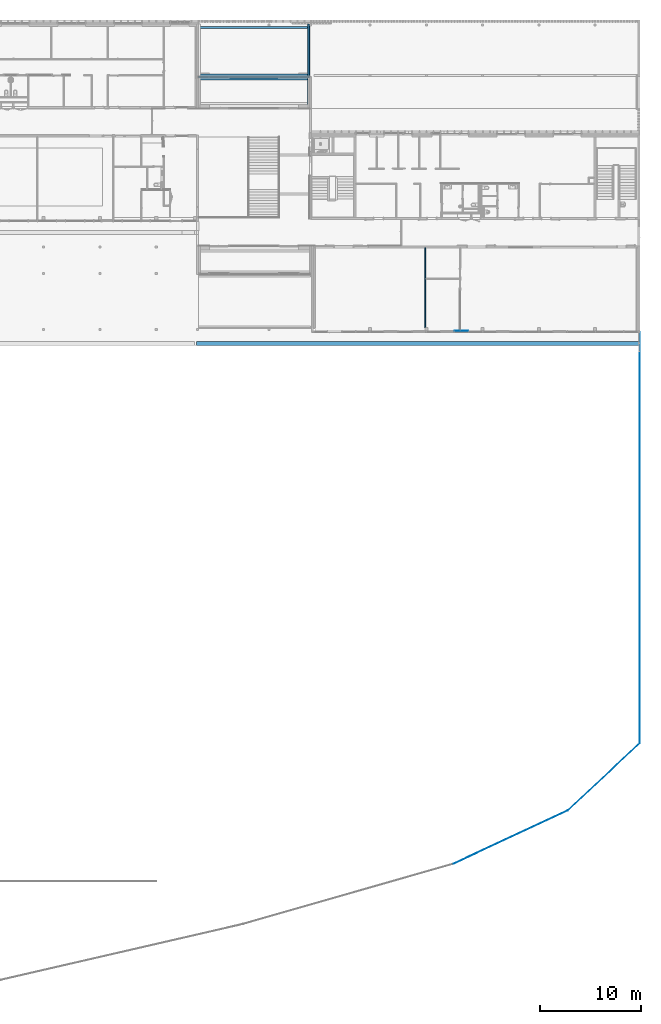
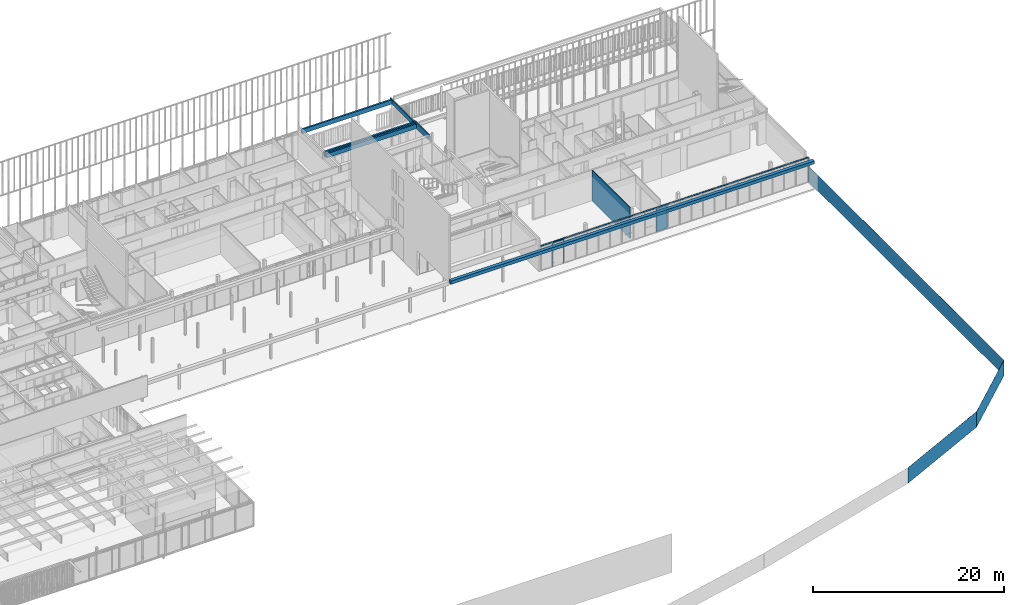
# One storey, part 161 of 240: 13 walls, 4 openings.
"""IFC2X3 building model written with IfcOpenShell, lengths in centimetres."""

from ifc_helpers import new_model, entity, si_unit, converted_unit, derived_unit, direction, frame, frame_2d, origin, origin_2d_with_axis, place, context, subcontext, project, spatial, polyline, rectangle, outline, extrude, clip, bounded_halfspace, faceted_brep, material, layer, layer_set, layer_usage, type_object, element, save


model = new_model("IFC2X3")

# Units and contexts
model_context = context("Model", 3, precision=0.001, world=origin(), true_north=direction((6.12303176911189e-17, 1.0)))
body_context = subcontext(model_context, "Body", "Model", "MODEL_VIEW")
ifc_project = project(units=[si_unit("LENGTHUNIT", "METRE", prefix="CENTI"), si_unit("AREAUNIT", "SQUARE_METRE"), si_unit("VOLUMEUNIT", "CUBIC_METRE"), converted_unit("PLANEANGLEUNIT", "DEGREE", entity("IfcRatioMeasure", 0.0174532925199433), si_unit("PLANEANGLEUNIT", "RADIAN"), dimensions=[0, 0, 0, 0, 0, 0, 0]), si_unit("MASSUNIT", "GRAM", prefix="KILO"), derived_unit("MASSDENSITYUNIT", [(si_unit("MASSUNIT", "GRAM", prefix="KILO"), 1), (si_unit("LENGTHUNIT", "METRE"), -3)]), si_unit("TIMEUNIT", "SECOND"), si_unit("FREQUENCYUNIT", "HERTZ"), si_unit("THERMODYNAMICTEMPERATUREUNIT", "DEGREE_CELSIUS"), derived_unit("THERMALTRANSMITTANCEUNIT", [(si_unit("MASSUNIT", "GRAM", prefix="KILO"), 1), (si_unit("THERMODYNAMICTEMPERATUREUNIT", "KELVIN"), -1), (si_unit("TIMEUNIT", "SECOND"), -3)]), derived_unit("VOLUMETRICFLOWRATEUNIT", [(si_unit("LENGTHUNIT", "METRE"), 3), (si_unit("TIMEUNIT", "SECOND"), -1)]), si_unit("ELECTRICCURRENTUNIT", "AMPERE"), si_unit("ELECTRICVOLTAGEUNIT", "VOLT"), si_unit("POWERUNIT", "WATT"), si_unit("FORCEUNIT", "NEWTON", prefix="KILO"), si_unit("ILLUMINANCEUNIT", "LUX"), si_unit("LUMINOUSFLUXUNIT", "LUMEN"), si_unit("LUMINOUSINTENSITYUNIT", "CANDELA"), derived_unit("USERDEFINED", [(si_unit("MASSUNIT", "GRAM", prefix="KILO"), -1), (si_unit("LENGTHUNIT", "METRE"), -2), (si_unit("TIMEUNIT", "SECOND"), 3), (si_unit("LUMINOUSFLUXUNIT", "LUMEN"), 1)]), derived_unit("LINEARVELOCITYUNIT", [(si_unit("LENGTHUNIT", "METRE"), 1), (si_unit("TIMEUNIT", "SECOND"), -1)]), si_unit("PRESSUREUNIT", "PASCAL"), derived_unit("USERDEFINED", [(si_unit("LENGTHUNIT", "METRE"), -2), (si_unit("MASSUNIT", "GRAM", prefix="KILO"), 1), (si_unit("TIMEUNIT", "SECOND"), -2)])], contexts=[model_context])

# Site, building, storey
site_placement = place(None, frame((-2781.94577612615, 7442.24238424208, 0.0)))
site = spatial("IfcSite", under=ifc_project, at=site_placement, Name="Default", CompositionType="ELEMENT")
building_placement = place(site_placement, origin())
building = spatial("IfcBuilding", under=site, at=building_placement, CompositionType="ELEMENT")
storey_placement = place(building_placement, origin())
storey = spatial("IfcBuildingStorey", under=building, at=storey_placement, Name="N00 - COO", CompositionType="ELEMENT", Elevation=0.0)

# Wall, openings
ifc_material_1 = material(Name="Aluminium bardage")
ifc_layer_1 = layer(ifc_material_1, 0.5)
ifc_material_2 = material(Name="01 - Lame d'air")
ifc_layer_2 = layer(ifc_material_2, 1.5)
ifc_material_3 = material(Name="00 - Isolant")
ifc_layer_3 = layer(ifc_material_3, 18.0)
ifc_layer_set_1 = layer_set([ifc_layer_1, ifc_layer_2, ifc_layer_3], Name="Mur de base:04 - Parement - ITE 18cm + vide 2cm")
ifc_layer_usage_1 = layer_usage(ifc_layer_set_1, "AXIS2", "POSITIVE", -10.0)
wall_type_1 = type_object("IfcWallType", Name="Mur de base:04 - Parement - ITE 18cm + vide 2cm", PredefinedType="STANDARD", material=ifc_layer_set_1)
wall_1_placement = place(building_placement, frame((-3629.49987968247, -3040.31349958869, 0.0)))
wall_1 = element("IfcWallStandardCase", 1, at=wall_1_placement, inside=storey, type_object=wall_type_1, material=ifc_layer_usage_1, Name="Mur de base:04 - Parement - ITE 18cm + vide 2cm", ObjectType="Mur de base:04 - Parement - ITE 18cm + vide 2cm", context=body_context, shape_type="SweptSolid", body=[
    extrude(rectangle(XDim=3239.49999684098, YDim=19.9999999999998, at=frame_2d((1619.74999842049, 2.1316282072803e-14), x_axis=(-1.0, 0.0))), origin(), (0.0, 0.0, 1.0), 313.0),
])
opening_1_placement = place(wall_1_placement, origin())
element("IfcOpeningElement", 2, at=opening_1_placement, cuts=wall_1, Name="Mur de base:04 - Parement - ITE 18cm + vide 2cm", ObjectType="Opening", context=body_context, shape_type="SweptSolid", body=[
    extrude(rectangle(XDim=312.5, YDim=142.816071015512, at=origin_2d_with_axis()), frame((71.4080355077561, -25.2399999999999, 156.25), z_axis=(0.0, 1.0, 0.0), x_axis=(0.0, 0.0, 1.0)), (0.0, 0.0, 1.0), 50.4799999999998),
])
opening_2_placement = place(wall_1_placement, origin())
element("IfcOpeningElement", 3, at=opening_2_placement, cuts=wall_1, Name="Mur de base:04 - Parement - ITE 18cm + vide 2cm", ObjectType="Opening", context=body_context, shape_type="SweptSolid", body=[
    extrude(rectangle(XDim=312.5, YDim=2959.8, at=frame_2d((0.0, -2.27373675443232e-13), x_axis=(1.0, 0.0))), frame((1759.09999684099, -25.2399999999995, 156.25), z_axis=(0.0, 1.0, 0.0), x_axis=(0.0, 0.0, 1.0)), (0.0, 0.0, 1.0), 50.4799999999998),
])
opening_3_placement = place(wall_1_placement, origin())
element("IfcOpeningElement", 4, at=opening_3_placement, cuts=wall_1, Name="Mur de base:04 - Parement - ITE 18cm + vide 2cm", ObjectType="Opening", context=body_context, shape_type="SweptSolid", body=[
    extrude(rectangle(XDim=200.000000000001, YDim=10.0, at=frame_2d((0.0, 0.0), x_axis=(0.0, 1.0))), frame((3234.49999684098, -199.899999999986, 100.0), z_axis=(0.0, 1.0, 0.0), x_axis=(1.0, 0.0, 0.0)), (0.0, 0.0, 1.0), 190.0),
])
opening_4_placement = place(wall_1_placement, frame((142.816071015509, -10.1000000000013, -15.0)))
element("IfcOpeningElement", 5, at=opening_4_placement, cuts=wall_1, Name="Mur de base:04 - Parement - ITE 18cm + vide 2cm", ObjectType="Opening", context=body_context, shape_type="Brep", body=[
    faceted_brep([(2.0, 0.0, 319.0), (2.0, 0.0, 0.0), (134.383925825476, 0.0, 0.0), (134.383925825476, 0.0, 319.0), (2.0, 1.30000000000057, 319.0), (2.0, 1.30000000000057, 0.0), (0.0, 1.30000000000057, 0.0), (0.0, 61.3000000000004, 0.0), (136.383925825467, 61.3000000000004, 0.0), (136.383925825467, 1.30000000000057, 0.0), (134.383925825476, 1.30000000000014, 0.0), (134.383925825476, 1.30000000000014, 319.0), (136.383925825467, 61.3000000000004, 321.0), (0.0, 61.3000000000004, 321.0), (136.383925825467, 1.30000000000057, 321.0), (0.0, 1.30000000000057, 321.0)], [[[0, 1, 2, 3]], [[1, 0, 4, 5]], [[2, 1, 5, 6, 7, 8, 9, 10]], [[3, 2, 10, 11]], [[0, 3, 11, 4]], [[12, 8, 7, 13]], [[14, 15, 6, 5, 4, 11, 10, 9]], [[8, 12, 14, 9]], [[13, 7, 6, 15]], [[12, 13, 15, 14]]]),
])

# Walls
ifc_material_4 = material(Name="01 - Maçonnerie")
ifc_layer_4 = layer(ifc_material_4, 20.0)
ifc_layer_set_2 = layer_set([ifc_layer_4], Name="Mur de base:04 - Structure - béton - 20cm")
ifc_layer_usage_2 = layer_usage(ifc_layer_set_2, "AXIS2", "NEGATIVE", 10.0)
wall_type_2 = type_object("IfcWallType", Name="Mur de base:04 - Structure - béton - 20cm", PredefinedType="STANDARD", material=ifc_layer_set_2)
wall_2_placement = place(storey_placement, frame((-4767.99987760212, -517.548500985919, 313.0)))
element("IfcWallStandardCase", 6, at=wall_2_placement, inside=storey, type_object=wall_type_2, material=ifc_layer_usage_2, Name="Mur de base:04 - Structure - béton - 20cm", ObjectType="Mur de base:04 - Structure - béton - 20cm", context=body_context, shape_type="Clipping", body=[
    clip(clip(extrude(rectangle(XDim=1099.99999791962, YDim=20.0, at=frame_2d((549.999998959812, 3.10862446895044e-14), x_axis=(-1.0, 0.0))), origin(), (0.0, 0.0, 1.0), 78.0000000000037), bounded_halfspace(frame((0.0, -5.0, 7.0), z_axis=(0.0, 0.0, 1.0), x_axis=(0.0, 1.0, 0.0)), True, frame((0.0, -5.0, 7.0), z_axis=(0.0, 0.0, 1.0), x_axis=(0.0, 1.0, 0.0)), polyline([(0.0, 0.0), (-5.0, 0.0), (-5.0, -1100.0), (0.0, -1100.0), (0.0, 0.0)]))), bounded_halfspace(frame((1100.0, -5.0, 7.0), z_axis=(0.0, 1.0, 0.0), x_axis=(0.0, 0.0, -1.0)), True, frame((1100.0, -5.0, 7.0), z_axis=(0.0, 1.0, 0.0), x_axis=(0.0, 0.0, -1.0)), polyline([(0.0, 0.0), (7.0, 0.0), (7.0, 1100.0), (0.0, 1100.0), (0.0, 0.0)]))),
])
ifc_layer_5 = layer(ifc_material_4, 40.0)
ifc_layer_set_3 = layer_set([ifc_layer_5], Name="Mur de base:04 - Structure - Béton - 40")
ifc_layer_usage_3 = layer_usage(ifc_layer_set_3, "AXIS2", "NEGATIVE", 20.0)
wall_type_3 = type_object("IfcWallType", Name="Mur de base:04 - Structure - Béton - 40", PredefinedType="STANDARD", material=ifc_layer_set_3)
wall_3_placement = place(building_placement, frame((-399.999882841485, -3160.31349958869, 313.0), z_axis=(0.0, 0.0, 1.0), x_axis=(-1.0, 0.0, 0.0)))
element("IfcWallStandardCase", 7, at=wall_3_placement, inside=storey, type_object=wall_type_3, material=ifc_layer_usage_3, Name="Mur de base:04 - Structure - Béton - 40", ObjectType="Mur de base:04 - Structure - Béton - 40", context=body_context, shape_type="SweptSolid", body=[
    extrude(rectangle(XDim=4387.99999476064, YDim=40.0000000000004, at=frame_2d((2193.99999738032, -1.59872115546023e-14), x_axis=(-1.0, 0.0))), origin(), (0.0, 0.0, 1.0), 40.0),
])
ifc_material_5 = material(Name="01 - Enduit/Plâtre")
ifc_layer_6 = layer(ifc_material_5, 1.3)
ifc_layer_7 = layer(ifc_material_3, 7.4)
ifc_layer_8 = layer(ifc_material_5, 1.3)
ifc_layer_set_4 = layer_set([ifc_layer_6, ifc_layer_7, ifc_layer_8], Name="Mur de base:06 - cloisons - Ba13 10cm")
ifc_layer_usage_4 = layer_usage(ifc_layer_set_4, "AXIS2", "NEGATIVE", 5.0)
wall_type_4 = type_object("IfcWallType", Name="Mur de base:06 - cloisons - Ba13 10cm", PredefinedType="STANDARD", material=ifc_layer_set_4)
wall_4_placement = place(building_placement, frame((-2519.99987760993, -2210.15656731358, 0.0), z_axis=(0.0, 0.0, 1.0), x_axis=(0.0, -1.0, 0.0)))
element("IfcWallStandardCase", 8, at=wall_4_placement, inside=storey, type_object=wall_type_4, material=ifc_layer_usage_4, Name="Mur de base:06 - cloisons - Ba13 10cm", ObjectType="Mur de base:06 - cloisons - Ba13 10cm", context=body_context, shape_type="Clipping", body=[
    clip(extrude(rectangle(XDim=795.156932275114, YDim=10.0000000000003, at=frame_2d((397.578466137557, 7.59392548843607e-14), x_axis=(-1.0, 0.0))), origin(), (0.0, 0.0, 1.0), 391.0), bounded_halfspace(frame((0.0, -5.0, 391.0), z_axis=(0.0, 0.0, -1.0), x_axis=(-1.0, 0.0, 0.0)), True, frame((0.0, -5.0, 391.0)), polyline([(0.0, 0.0), (795.156932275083, 0.0), (795.156932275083, 10.0), (310.0, 10.0), (300.0, 10.0), (0.0, 10.0), (0.0, 0.0)]))),
])
ifc_layer_9 = layer(ifc_material_3, 16.0)
ifc_layer_set_5 = layer_set([ifc_layer_9], Name="Mur de base:04 - retour isolation acrotère - ITE 16cm")
ifc_layer_usage_5 = layer_usage(ifc_layer_set_5, "AXIS2", "NEGATIVE", 8.0)
wall_type_5 = type_object("IfcWallType", Name="Mur de base:04 - retour isolation acrotère - ITE 16cm", PredefinedType="STANDARD", material=ifc_layer_set_5)
wall_5_placement = place(building_placement, frame((-3675.99987968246, 10.0, 320.0), z_axis=(0.0, 0.0, 1.0), x_axis=(0.0, -1.0, 0.0)))
element("IfcWallStandardCase", 9, at=wall_5_placement, inside=storey, type_object=wall_type_5, material=ifc_layer_usage_5, Name="Mur de base:04 - retour isolation acrotère - ITE 16cm", ObjectType="Mur de base:04 - retour isolation acrotère - ITE 16cm", context=body_context, shape_type="Clipping", body=[
    clip(clip(extrude(rectangle(XDim=800.048500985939, YDim=15.9999999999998, at=frame_2d((400.024250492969, -1.77635683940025e-14), x_axis=(-1.0, 0.0))), origin(), (0.0, 0.0, 1.0), 70.9999999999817), bounded_halfspace(frame((517.548500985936, -8.0, 55.0), z_axis=(0.0, 0.0, -1.0), x_axis=(1.0, 0.0, 0.0)), True, frame((517.548500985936, -8.0, 55.0), z_axis=(0.0, 0.0, -1.0), x_axis=(1.0, 0.0, 0.0)), polyline([(0.0, 0.0), (-517.548500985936, 0.0), (-517.548500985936, -16.0), (0.0, -16.0), (0.0, 0.0)]))), bounded_halfspace(frame((517.548500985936, 8.0, 55.0), z_axis=(1.0, 0.0, 0.0), x_axis=(0.0, 0.0, 1.0)), True, frame((517.548500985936, 8.0, 55.0), z_axis=(1.0, 0.0, 0.0), x_axis=(0.0, 0.0, 1.0)), polyline([(0.0, 0.0), (16.0, 0.0), (16.0, 16.0), (0.0, 16.0), (0.0, 0.0)]))),
])
ifc_material_6 = material(Name="Métal déployé")
ifc_layer_10 = layer(ifc_material_6, 0.3)
ifc_material_7 = material(Name="Métal - Alu brossé")
ifc_layer_11 = layer(ifc_material_7, 1.7)
ifc_layer_set_6 = layer_set([ifc_layer_10, ifc_layer_11], Name="Mur de base:07 -Tôle alu sur CP")
ifc_layer_usage_6 = layer_usage(ifc_layer_set_6, "AXIS2", "POSITIVE", -1.0)
wall_type_6 = type_object("IfcWallType", Name="Mur de base:07 -Tôle alu sur CP", PredefinedType="STANDARD", material=ifc_layer_set_6)
wall_6_placement = place(building_placement, frame((-2093.549882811, -3032.21349958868, 0.0), z_axis=(0.0, 0.0, 1.0), x_axis=(-1.0, 0.0, 0.0)))
element("IfcWallStandardCase", 10, at=wall_6_placement, inside=storey, type_object=wall_type_6, material=ifc_layer_usage_6, Name="Mur de base:07 -Tôle alu sur CP", ObjectType="Mur de base:07 -Tôle alu sur CP", context=body_context, shape_type="Clipping", body=[
    clip(extrude(rectangle(XDim=133.5, YDim=2.00000000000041, at=frame_2d((66.75, -5.21804821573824e-15), x_axis=(-1.0, 0.0))), origin(), (0.0, 0.0, 1.0), 313.0), bounded_halfspace(frame((0.0, -1.0, 313.0), z_axis=(0.0, 0.0, 1.0), x_axis=(0.0, -1.0, 0.0)), False, frame((0.0, -1.0, 313.0)), polyline([(0.0, 0.0), (133.5, 0.0), (133.5, 2.0), (0.0, 2.0), (0.0, 0.0)]))),
])
ifc_layer_12 = layer(ifc_material_6, 0.3)
ifc_material_8 = material(Name="00 - Isolant polystyrène")
ifc_layer_13 = layer(ifc_material_8, 4.0)
ifc_layer_set_7 = layer_set([ifc_layer_12, ifc_layer_13], Name="Mur de base:07 -Tôle alu Shadowbox")
ifc_layer_usage_7 = layer_usage(ifc_layer_set_7, "AXIS2", "NEGATIVE", 2.15)
wall_type_7 = type_object("IfcWallType", Name="Mur de base:07 -Tôle alu Shadowbox", PredefinedType="STANDARD", material=ifc_layer_set_7)
wall_7_placement = place(storey_placement, frame((-2093.549882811, -3035.36349958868, 0.0), z_axis=(0.0, 0.0, 1.0), x_axis=(-1.0, 0.0, 0.0)))
element("IfcWallStandardCase", 11, at=wall_7_placement, inside=storey, type_object=wall_type_7, material=ifc_layer_usage_7, Name="Mur de base:07 -Tôle alu Shadowbox", ObjectType="Mur de base:07 -Tôle alu Shadowbox", context=body_context, shape_type="Clipping", body=[
    clip(extrude(rectangle(XDim=133.5, YDim=4.29999999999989, at=frame_2d((66.75, -5.10702591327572e-15), x_axis=(-1.0, 0.0))), origin(), (0.0, 0.0, 1.0), 313.0), bounded_halfspace(frame((0.0, -2.14999999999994, 313.0), z_axis=(0.0, 0.0, 1.0), x_axis=(0.0, -1.0, 0.0)), False, frame((0.0, -2.14999999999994, 313.0)), polyline([(0.0, 0.0), (133.5, 0.0), (133.5, 4.29999999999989), (0.0, 4.29999999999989), (0.0, 0.0)]))),
])
ifc_layer_14 = layer(ifc_material_3, 20.0)
ifc_layer_set_8 = layer_set([ifc_layer_14], Name="Mur de base:04 - retour isolation acrotère - ITE 20 cm")
ifc_layer_usage_8 = layer_usage(ifc_layer_set_8, "AXIS2", "NEGATIVE", 10.0)
wall_type_8 = type_object("IfcWallType", Name="Mur de base:04 - retour isolation acrotère - ITE 20 cm", PredefinedType="STANDARD", material=ifc_layer_set_8)
wall_8_placement = place(storey_placement, frame((-4767.99987760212, -537.548500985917, 320.0)))
element("IfcWallStandardCase", 12, at=wall_8_placement, inside=storey, type_object=wall_type_8, material=ifc_layer_usage_8, Name="Mur de base:04 - retour isolation acrotère - ITE 20 cm", ObjectType="Mur de base:04 - retour isolation acrotère - ITE 20 cm", context=body_context, shape_type="Clipping", body=[
    clip(extrude(rectangle(XDim=1099.99999791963, YDim=20.0, at=frame_2d((549.999998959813, 3.10862446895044e-14), x_axis=(-1.0, 0.0))), origin(), (0.0, 0.0, 1.0), 55.0000000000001), bounded_halfspace(frame((0.0, -10.0, 55.0), z_axis=(0.0, 0.0, -1.0), x_axis=(0.0, -1.0, 0.0)), True, frame((0.0, -10.0, 55.0), z_axis=(0.0, 0.0, -1.0), x_axis=(0.0, -1.0, 0.0)), polyline([(0.0, 0.0), (-20.0, 0.0), (-20.0, -1100.0), (0.0, -1100.0), (0.0, 0.0)]))),
])
ifc_layer_usage_9 = layer_usage(ifc_layer_set_8, "AXIS2", "NEGATIVE", 10.0)
wall_9_placement = place(storey_placement, frame((-4767.99987760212, -497.548500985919, 320.0)))
element("IfcWallStandardCase", 13, at=wall_9_placement, inside=storey, type_object=wall_type_8, material=ifc_layer_usage_9, Name="Mur de base:04 - retour isolation acrotère - ITE 20 cm", ObjectType="Mur de base:04 - retour isolation acrotère - ITE 20 cm", context=body_context, shape_type="Clipping", body=[
    clip(extrude(rectangle(XDim=1099.99999791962, YDim=19.9999999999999, at=frame_2d((549.999998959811, 3.5527136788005e-15), x_axis=(-1.0, 0.0))), origin(), (0.0, 0.0, 1.0), 55.0000000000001), bounded_halfspace(frame((0.0, -10.0, 55.0), z_axis=(0.0, 0.0, -1.0), x_axis=(0.0, -1.0, 0.0)), True, frame((0.0, -10.0, 55.0), z_axis=(0.0, 0.0, -1.0), x_axis=(0.0, -1.0, 0.0)), polyline([(0.0, 0.0), (-20.0, 0.0), (-20.0, -1100.0), (0.0, -1100.0), (0.0, 0.0)]))),
])
ifc_layer_usage_10 = layer_usage(ifc_layer_set_8, "AXIS2", "NEGATIVE", 10.0)
wall_10_placement = place(storey_placement, frame((-4767.99987760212, -25.0, 320.0)))
element("IfcWallStandardCase", 14, at=wall_10_placement, inside=storey, type_object=wall_type_8, material=ifc_layer_usage_10, Name="Mur de base:04 - retour isolation acrotère - ITE 20 cm", ObjectType="Mur de base:04 - retour isolation acrotère - ITE 20 cm", context=body_context, shape_type="Clipping", body=[
    clip(extrude(rectangle(XDim=1099.9999979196, YDim=20.0, at=frame_2d((549.999998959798, 0.0), x_axis=(-1.0, 0.0))), origin(), (0.0, 0.0, 1.0), 54.9999999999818), bounded_halfspace(frame((0.0, -10.0, 55.0), z_axis=(0.0, 0.0, -1.0), x_axis=(0.0, -1.0, 0.0)), True, frame((0.0, -10.0, 55.0), z_axis=(0.0, 0.0, -1.0), x_axis=(0.0, -1.0, 0.0)), polyline([(0.0, 0.0), (-20.0, 0.0), (-20.0, -1100.0), (0.0, -1100.0), (0.0, 0.0)]))),
])
ifc_material_9 = material(Name="Métal déployé grillage")
ifc_layer_15 = layer(ifc_material_9, 1.0)
ifc_layer_set_9 = layer_set([ifc_layer_15], Name="Mur de base:clôture")
ifc_layer_usage_11 = layer_usage(ifc_layer_set_9, "AXIS2", "NEGATIVE", 0.5)
wall_type_9 = type_object("IfcWallType", Name="Mur de base:clôture", PredefinedType="STANDARD", material=ifc_layer_set_9)
wall_11_placement = place(building_placement, frame((-389.999882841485, -3050.3134995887, 0.0), z_axis=(0.0, 0.0, 1.0), x_axis=(0.0, -1.0, 0.0)))
element("IfcWallStandardCase", 15, at=wall_11_placement, inside=storey, type_object=wall_type_9, material=ifc_layer_usage_11, Name="Mur de base:clôture", ObjectType="Mur de base:clôture", context=body_context, shape_type="SweptSolid", body=[
    extrude(outline(polyline([(4076.41065776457, -0.500000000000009), (4075.47814267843, 0.499999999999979), (0.0, 0.499999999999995), (0.0, -0.499999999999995), (4075.04333030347, -0.500000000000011), (4076.41065776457, -0.500000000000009)])), origin(), (0.0, 0.0, 1.0), 200.0),
])
ifc_layer_usage_12 = layer_usage(ifc_layer_set_9, "AXIS2", "NEGATIVE", 0.5)
wall_12_placement = place(building_placement, frame((-390.15888366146, -7125.72250674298, 0.0), z_axis=(0.0, 0.0, 1.0), x_axis=(-0.731353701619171, -0.681998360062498, 0.0)))
element("IfcWallStandardCase", 16, at=wall_12_placement, inside=storey, type_object=wall_type_9, material=ifc_layer_usage_12, Name="Mur de base:clôture", ObjectType="Mur de base:clôture", context=body_context, shape_type="SweptSolid", body=[
    extrude(outline(polyline([(979.703401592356, -0.500000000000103), (979.86178603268, 0.499999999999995), (0.932515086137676, 0.500000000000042), (0.0, -0.499999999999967), (979.703401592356, -0.500000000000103)])), origin(), (0.0, 0.0, 1.0), 200.0),
])
ifc_layer_usage_13 = layer_usage(ifc_layer_set_9, "AXIS2", "NEGATIVE", 0.5)
wall_13_placement = place(building_placement, frame((-1106.65473790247, -7793.89916086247, 0.0), z_axis=(0.0, 0.0, 1.0), x_axis=(-0.90630778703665, -0.422618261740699, 0.0)))
element("IfcWallStandardCase", 17, at=wall_13_placement, inside=storey, type_object=wall_type_9, material=ifc_layer_usage_13, Name="Mur de base:clôture", ObjectType="Mur de base:clôture", context=body_context, shape_type="SweptSolid", body=[
    extrude(outline(polyline([(1249.79294816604, -0.500000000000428), (1249.87164987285, 0.500000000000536), (0.0, 0.500000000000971), (0.158384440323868, -0.499999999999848), (1249.79294816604, -0.500000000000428)])), origin(), (0.0, 0.0, 1.0), 200.0),
])

save(model, "model.ifc")
